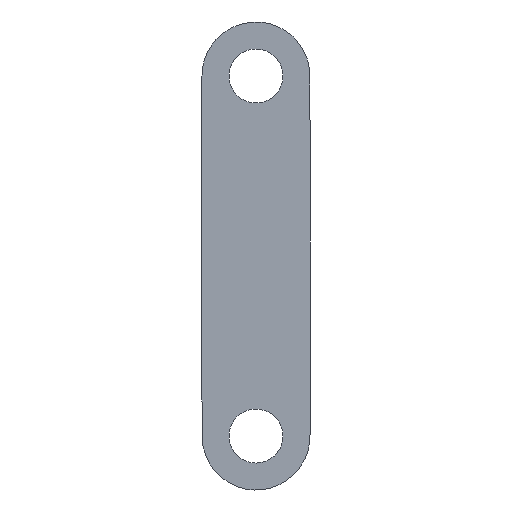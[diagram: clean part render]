
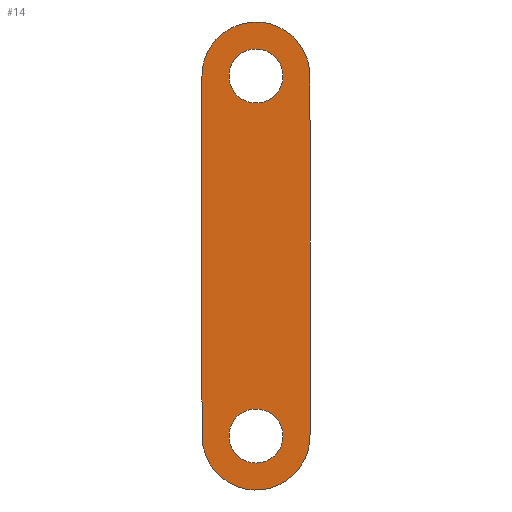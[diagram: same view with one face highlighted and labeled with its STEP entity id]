
A CAD part, top view. The second image highlights one B-rep face of the part: STEP entity #14.
In plain terms, the highlighted planar face has unit normal (0, 0, 1).
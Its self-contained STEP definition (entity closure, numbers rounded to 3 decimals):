
#14=ADVANCED_FACE('',(#17,#15,#16),#33,.T.);
#15=FACE_BOUND('',#19,.T.);
#16=FACE_BOUND('',#20,.T.);
#17=FACE_OUTER_BOUND('',#18,.T.);
#18=EDGE_LOOP('',(#21));
#19=EDGE_LOOP('',(#22));
#20=EDGE_LOOP('',(#23));
#21=ORIENTED_EDGE('',*,*,#24,.T.);
#22=ORIENTED_EDGE('',*,*,#25,.T.);
#23=ORIENTED_EDGE('',*,*,#26,.F.);
#24=EDGE_CURVE('',#30,#30,#27,.T.);
#25=EDGE_CURVE('',#31,#31,#28,.T.);
#26=EDGE_CURVE('',#32,#32,#29,.T.);
#27=(
BOUNDED_CURVE()
B_SPLINE_CURVE(2,(#134,#135,#136,#137,#138,#139,#140,#141,#142,#143,#144,
#145,#146),.UNSPECIFIED.,.T.,.F.)
B_SPLINE_CURVE_WITH_KNOTS((3,2,2,2,2,2,3),(471.239,871.239,
965.487,1059.734,1459.734,1553.982,1648.23),
 .UNSPECIFIED.)
CURVE()
GEOMETRIC_REPRESENTATION_ITEM()
RATIONAL_B_SPLINE_CURVE((1.,1.,1.,0.707,1.,0.707,
1.,1.,1.,0.707,1.,0.707,1.))
REPRESENTATION_ITEM('')
);
#28=(
BOUNDED_CURVE()
B_SPLINE_CURVE(2,(#147,#148,#149,#150,#151,#152,#153,#154,#155),
 .UNSPECIFIED.,.T.,.F.)
B_SPLINE_CURVE_WITH_KNOTS((3,2,2,2,3),(-188.496,-141.372,
-94.248,-47.124,0.),.UNSPECIFIED.)
CURVE()
GEOMETRIC_REPRESENTATION_ITEM()
RATIONAL_B_SPLINE_CURVE((1.,0.707,1.,0.707,1.,0.707,
1.,0.707,1.))
REPRESENTATION_ITEM('')
);
#29=(
BOUNDED_CURVE()
B_SPLINE_CURVE(2,(#156,#157,#158,#159,#160,#161,#162,#163,#164),
 .UNSPECIFIED.,.T.,.F.)
B_SPLINE_CURVE_WITH_KNOTS((3,2,2,2,3),(-188.496,-141.372,
-94.248,-47.124,0.),.UNSPECIFIED.)
CURVE()
GEOMETRIC_REPRESENTATION_ITEM()
RATIONAL_B_SPLINE_CURVE((1.,0.707,1.,0.707,1.,0.707,
1.,0.707,1.))
REPRESENTATION_ITEM('')
);
#30=VERTEX_POINT('',#131);
#31=VERTEX_POINT('',#132);
#32=VERTEX_POINT('',#133);
#33=PLANE('',#122);
#122=AXIS2_PLACEMENT_3D('',#130,#126,$);
#126=DIRECTION('',(0.,0.,1.));
#130=CARTESIAN_POINT('',(-61.2,-465.2,0.));
#131=CARTESIAN_POINT('',(-60.,0.,0.));
#132=CARTESIAN_POINT('',(0.,30.,0.));
#133=CARTESIAN_POINT('',(0.,-430.,0.));
#134=CARTESIAN_POINT('',(-60.,0.,0.));
#135=CARTESIAN_POINT('',(-60.,-200.,0.));
#136=CARTESIAN_POINT('',(-60.,-400.,0.));
#137=CARTESIAN_POINT('',(-60.,-460.,0.));
#138=CARTESIAN_POINT('',(0.,-460.,0.));
#139=CARTESIAN_POINT('',(60.,-460.,0.));
#140=CARTESIAN_POINT('',(60.,-400.,0.));
#141=CARTESIAN_POINT('',(60.,-200.,0.));
#142=CARTESIAN_POINT('',(60.,0.,0.));
#143=CARTESIAN_POINT('',(60.,60.,0.));
#144=CARTESIAN_POINT('',(0.,60.,0.));
#145=CARTESIAN_POINT('',(-60.,60.,0.));
#146=CARTESIAN_POINT('',(-60.,0.,0.));
#147=CARTESIAN_POINT('',(0.,30.,0.));
#148=CARTESIAN_POINT('',(30.,30.,0.));
#149=CARTESIAN_POINT('',(30.,0.,0.));
#150=CARTESIAN_POINT('',(30.,-30.,0.));
#151=CARTESIAN_POINT('',(0.,-30.,0.));
#152=CARTESIAN_POINT('',(-30.,-30.,0.));
#153=CARTESIAN_POINT('',(-30.,0.,0.));
#154=CARTESIAN_POINT('',(-30.,30.,0.));
#155=CARTESIAN_POINT('',(0.,30.,0.));
#156=CARTESIAN_POINT('',(0.,-430.,0.));
#157=CARTESIAN_POINT('',(30.,-430.,0.));
#158=CARTESIAN_POINT('',(30.,-400.,0.));
#159=CARTESIAN_POINT('',(30.,-370.,0.));
#160=CARTESIAN_POINT('',(0.,-370.,0.));
#161=CARTESIAN_POINT('',(-30.,-370.,0.));
#162=CARTESIAN_POINT('',(-30.,-400.,0.));
#163=CARTESIAN_POINT('',(-30.,-430.,0.));
#164=CARTESIAN_POINT('',(0.,-430.,0.));
